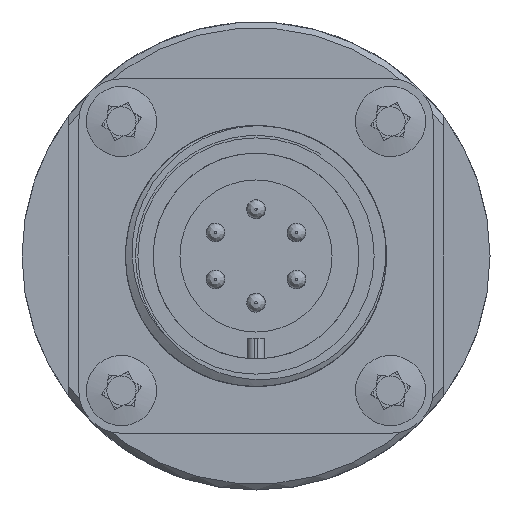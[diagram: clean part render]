
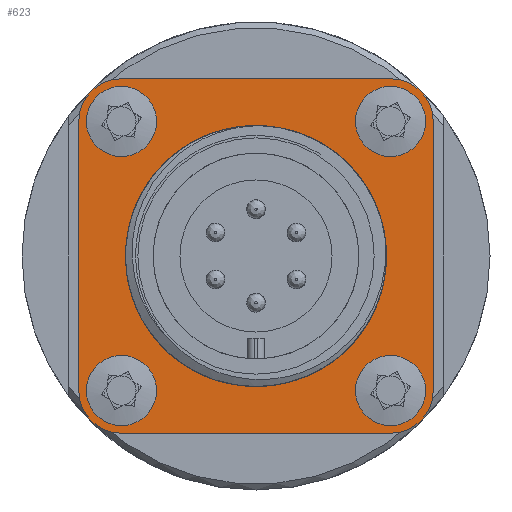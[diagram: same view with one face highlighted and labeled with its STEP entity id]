
A CAD part, front view. The second image highlights one B-rep face of the part: STEP entity #623.
In plain terms, the highlighted planar face has unit normal (0, -1, 0) as drawn and (-1, 0, 0) by its records, which use the part's own axes.
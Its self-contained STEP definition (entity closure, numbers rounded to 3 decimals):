
#623 = ADVANCED_FACE( '', ( #1250, #1251, #1252, #1253, #1254, #1255 ), #1256, .F. );
#1250 = FACE_BOUND( '', #5131, .T. );
#1251 = FACE_BOUND( '', #5132, .T. );
#1252 = FACE_OUTER_BOUND( '', #5133, .T. );
#1253 = FACE_BOUND( '', #5134, .T. );
#1254 = FACE_BOUND( '', #5135, .T. );
#1255 = FACE_BOUND( '', #5136, .T. );
#1256 = PLANE( '', #5137 );
#5131 = EDGE_LOOP( '', ( #7586 ) );
#5132 = EDGE_LOOP( '', ( #7587 ) );
#5133 = EDGE_LOOP( '', ( #7588, #7589, #7590, #7591, #7592, #7593, #7594, #7595 ) );
#5134 = EDGE_LOOP( '', ( #7596 ) );
#5135 = EDGE_LOOP( '', ( #7597 ) );
#5136 = EDGE_LOOP( '', ( #7598 ) );
#5137 = AXIS2_PLACEMENT_3D( '', #7599, #7600, #7601 );
#7586 = ORIENTED_EDGE( '', *, *, #8439, .T. );
#7587 = ORIENTED_EDGE( '', *, *, #8498, .T. );
#7588 = ORIENTED_EDGE( '', *, *, #8132, .F. );
#7589 = ORIENTED_EDGE( '', *, *, #8357, .F. );
#7590 = ORIENTED_EDGE( '', *, *, #8453, .F. );
#7591 = ORIENTED_EDGE( '', *, *, #8462, .F. );
#7592 = ORIENTED_EDGE( '', *, *, #8187, .F. );
#7593 = ORIENTED_EDGE( '', *, *, #8499, .F. );
#7594 = ORIENTED_EDGE( '', *, *, #8500, .F. );
#7595 = ORIENTED_EDGE( '', *, *, #8119, .F. );
#7596 = ORIENTED_EDGE( '', *, *, #8470, .T. );
#7597 = ORIENTED_EDGE( '', *, *, #8190, .T. );
#7598 = ORIENTED_EDGE( '', *, *, #8310, .T. );
#7599 = CARTESIAN_POINT( '', ( -2.4, -11.5, 11.5 ) );
#7600 = DIRECTION( '', ( 1., 0., 0. ) );
#7601 = DIRECTION( '', ( 0., 1., 0. ) );
#8119 = EDGE_CURVE( '', #8658, #8660, #8661, .T. );
#8132 = EDGE_CURVE( '', #8679, #8658, #8681, .T. );
#8187 = EDGE_CURVE( '', #8771, #8773, #8774, .T. );
#8190 = EDGE_CURVE( '', #8777, #8777, #8778, .T. );
#8310 = EDGE_CURVE( '', #8964, #8964, #8965, .T. );
#8357 = EDGE_CURVE( '', #9039, #8679, #9041, .T. );
#8439 = EDGE_CURVE( '', #9159, #9159, #9160, .T. );
#8453 = EDGE_CURVE( '', #9179, #9039, #9181, .T. );
#8462 = EDGE_CURVE( '', #8773, #9179, #9191, .T. );
#8470 = EDGE_CURVE( '', #9202, #9202, #9203, .T. );
#8498 = EDGE_CURVE( '', #9241, #9241, #9242, .T. );
#8499 = EDGE_CURVE( '', #9243, #8771, #9244, .T. );
#8500 = EDGE_CURVE( '', #8660, #9243, #9245, .T. );
#8658 = VERTEX_POINT( '', #9433 );
#8660 = VERTEX_POINT( '', #9436 );
#8661 = LINE( '', #9437, #9438 );
#8679 = VERTEX_POINT( '', #9459 );
#8681 = CIRCLE( '', #9462, 3.65 );
#8771 = VERTEX_POINT( '', #10105 );
#8773 = VERTEX_POINT( '', #10108 );
#8774 = CIRCLE( '', #10109, 3.65 );
#8777 = VERTEX_POINT( '', #10113 );
#8778 = CIRCLE( '', #10114, 1.5 );
#8964 = VERTEX_POINT( '', #11660 );
#8965 = CIRCLE( '', #11661, 1.5 );
#9039 = VERTEX_POINT( '', #11788 );
#9041 = LINE( '', #11791, #11792 );
#9159 = VERTEX_POINT( '', #12839 );
#9160 = CIRCLE( '', #12840, 11.15 );
#9179 = VERTEX_POINT( '', #12861 );
#9181 = CIRCLE( '', #12864, 3.65 );
#9191 = LINE( '', #12898, #12899 );
#9202 = VERTEX_POINT( '', #12911 );
#9203 = CIRCLE( '', #12912, 1.5 );
#9241 = VERTEX_POINT( '', #12983 );
#9242 = CIRCLE( '', #12984, 1.5 );
#9243 = VERTEX_POINT( '', #12985 );
#9244 = LINE( '', #12986, #12987 );
#9245 = CIRCLE( '', #12988, 3.65 );
#9433 = CARTESIAN_POINT( '', ( -2.4, -15.15, 11.5 ) );
#9436 = CARTESIAN_POINT( '', ( -2.4, -15.15, -11.5 ) );
#9437 = CARTESIAN_POINT( '', ( -2.4, -15.15, 11.5 ) );
#9438 = VECTOR( '', #13268, 1000. );
#9459 = CARTESIAN_POINT( '', ( -2.4, -11.5, 15.15 ) );
#9462 = AXIS2_PLACEMENT_3D( '', #13288, #13289, #13290 );
#10105 = CARTESIAN_POINT( '', ( -2.4, 11.5, -15.15 ) );
#10108 = CARTESIAN_POINT( '', ( -2.4, 15.15, -11.5 ) );
#10109 = AXIS2_PLACEMENT_3D( '', #13354, #13355, #13356 );
#10113 = CARTESIAN_POINT( '', ( -2.4, 13., -11.5 ) );
#10114 = AXIS2_PLACEMENT_3D( '', #13358, #13359, #13360 );
#11660 = CARTESIAN_POINT( '', ( -2.4, -10., -11.5 ) );
#11661 = AXIS2_PLACEMENT_3D( '', #13500, #13501, #13502 );
#11788 = CARTESIAN_POINT( '', ( -2.4, 11.5, 15.15 ) );
#11791 = CARTESIAN_POINT( '', ( -2.4, -11.5, 15.15 ) );
#11792 = VECTOR( '', #13583, 1000. );
#12839 = CARTESIAN_POINT( '', ( -2.4, 11.15, 0. ) );
#12840 = AXIS2_PLACEMENT_3D( '', #13674, #13675, #13676 );
#12861 = CARTESIAN_POINT( '', ( -2.4, 15.15, 11.5 ) );
#12864 = AXIS2_PLACEMENT_3D( '', #13695, #13696, #13697 );
#12898 = CARTESIAN_POINT( '', ( -2.4, 15.15, 11.5 ) );
#12899 = VECTOR( '', #13701, 1000. );
#12911 = CARTESIAN_POINT( '', ( -2.4, 13., 11.5 ) );
#12912 = AXIS2_PLACEMENT_3D( '', #13712, #13713, #13714 );
#12983 = CARTESIAN_POINT( '', ( -2.4, -10., 11.5 ) );
#12984 = AXIS2_PLACEMENT_3D( '', #13741, #13742, #13743 );
#12985 = CARTESIAN_POINT( '', ( -2.4, -11.5, -15.15 ) );
#12986 = CARTESIAN_POINT( '', ( -2.4, -11.5, -15.15 ) );
#12987 = VECTOR( '', #13744, 1000. );
#12988 = AXIS2_PLACEMENT_3D( '', #13745, #13746, #13747 );
#13268 = DIRECTION( '', ( 0., 0., -1. ) );
#13288 = CARTESIAN_POINT( '', ( -2.4, -11.5, 11.5 ) );
#13289 = DIRECTION( '', ( 1., 0., 0. ) );
#13290 = DIRECTION( '', ( 0., 1., 0. ) );
#13354 = CARTESIAN_POINT( '', ( -2.4, 11.5, -11.5 ) );
#13355 = DIRECTION( '', ( 1., 0., 0. ) );
#13356 = DIRECTION( '', ( 0., -1., 0. ) );
#13358 = CARTESIAN_POINT( '', ( -2.4, 11.5, -11.5 ) );
#13359 = DIRECTION( '', ( 1., 0., 0. ) );
#13360 = DIRECTION( '', ( 0., 1., 0. ) );
#13500 = CARTESIAN_POINT( '', ( -2.4, -11.5, -11.5 ) );
#13501 = DIRECTION( '', ( 1., 0., 0. ) );
#13502 = DIRECTION( '', ( 0., 1., 0. ) );
#13583 = DIRECTION( '', ( 0., -1., 0. ) );
#13674 = CARTESIAN_POINT( '', ( -2.4, 0., 0. ) );
#13675 = DIRECTION( '', ( 1., 0., 0. ) );
#13676 = DIRECTION( '', ( 0., 1., 0. ) );
#13695 = CARTESIAN_POINT( '', ( -2.4, 11.5, 11.5 ) );
#13696 = DIRECTION( '', ( 1., 0., 0. ) );
#13697 = DIRECTION( '', ( 0., 1., 0. ) );
#13701 = DIRECTION( '', ( 0., 0., 1. ) );
#13712 = CARTESIAN_POINT( '', ( -2.4, 11.5, 11.5 ) );
#13713 = DIRECTION( '', ( 1., 0., 0. ) );
#13714 = DIRECTION( '', ( 0., 1., 0. ) );
#13741 = CARTESIAN_POINT( '', ( -2.4, -11.5, 11.5 ) );
#13742 = DIRECTION( '', ( 1., 0., 0. ) );
#13743 = DIRECTION( '', ( 0., 1., 0. ) );
#13744 = DIRECTION( '', ( 0., 1., 0. ) );
#13745 = CARTESIAN_POINT( '', ( -2.4, -11.5, -11.5 ) );
#13746 = DIRECTION( '', ( 1., 0., 0. ) );
#13747 = DIRECTION( '', ( 0., 1., 0. ) );
